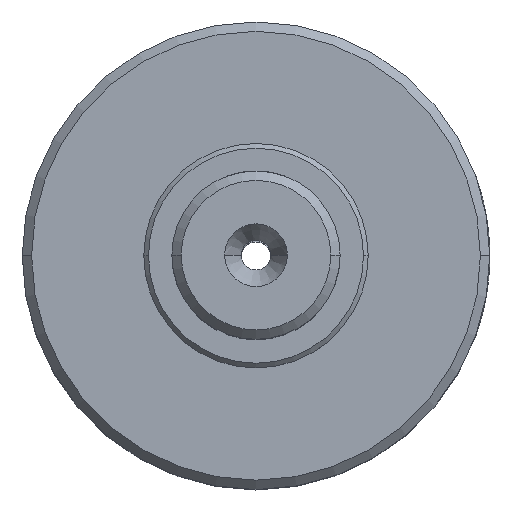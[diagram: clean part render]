
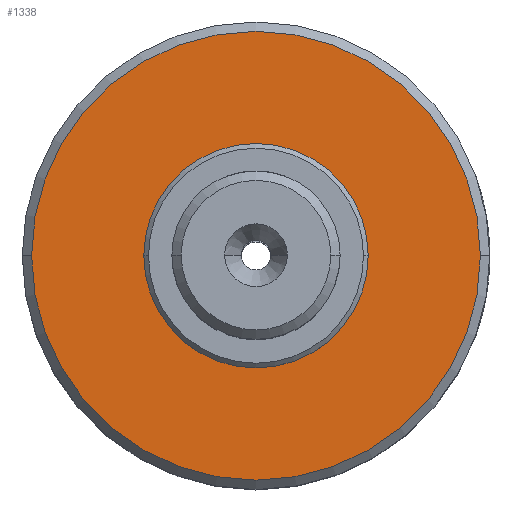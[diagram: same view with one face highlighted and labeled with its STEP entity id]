
A CAD part, top view. The second image highlights one B-rep face of the part: STEP entity #1338.
In plain terms, the highlighted planar face has unit normal (0, 0, 1).
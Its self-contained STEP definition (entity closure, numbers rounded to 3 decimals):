
#97 = AXIS2_PLACEMENT_3D ( 'NONE', #1650, #1080, #1220 ) ;
#102 = CARTESIAN_POINT ( 'NONE',  ( 24., 0., 0. ) ) ;
#124 = ORIENTED_EDGE ( 'NONE', *, *, #1686, .T. ) ;
#126 = ORIENTED_EDGE ( 'NONE', *, *, #174, .T. ) ;
#137 = CIRCLE ( 'NONE', #1095, 10.5 ) ;
#162 = CIRCLE ( 'NONE', #2342, 10.5 ) ;
#174 = EDGE_CURVE ( 'NONE', #277, #1165, #137, .T. ) ;
#277 = VERTEX_POINT ( 'NONE', #1339 ) ;
#670 = ORIENTED_EDGE ( 'NONE', *, *, #2336, .T. ) ;
#733 = CIRCLE ( 'NONE', #1565, 24. ) ;
#734 = CARTESIAN_POINT ( 'NONE',  ( 0., 0., 0. ) ) ;
#781 = CIRCLE ( 'NONE', #1096, 24. ) ;
#871 = CARTESIAN_POINT ( 'NONE',  ( 0., 0., 0. ) ) ;
#882 = DIRECTION ( 'NONE',  ( 0., 0., 1. ) ) ;
#891 = DIRECTION ( 'NONE',  ( 1., 0., 0. ) ) ;
#936 = VERTEX_POINT ( 'NONE', #1968 ) ;
#1080 = DIRECTION ( 'NONE',  ( 0., 0., 1. ) ) ;
#1095 = AXIS2_PLACEMENT_3D ( 'NONE', #1863, #1821, #1855 ) ;
#1096 = AXIS2_PLACEMENT_3D ( 'NONE', #1101, #1204, #1216 ) ;
#1098 = CARTESIAN_POINT ( 'NONE',  ( -10.5, 0., 0. ) ) ;
#1101 = CARTESIAN_POINT ( 'NONE',  ( 0., 0., 0. ) ) ;
#1165 = VERTEX_POINT ( 'NONE', #1098 ) ;
#1176 = FACE_OUTER_BOUND ( 'NONE', #1583, .T. ) ;
#1204 = DIRECTION ( 'NONE',  ( 0., 0., 1. ) ) ;
#1216 = DIRECTION ( 'NONE',  ( 1., 0., 0. ) ) ;
#1220 = DIRECTION ( 'NONE',  ( 1., 0., 0. ) ) ;
#1330 = EDGE_CURVE ( 'NONE', #1679, #936, #781, .T. ) ;
#1338 = ADVANCED_FACE ( 'NONE', ( #1505, #1176 ), #1673, .T. ) ;
#1339 = CARTESIAN_POINT ( 'NONE',  ( 10.5, 0., 0. ) ) ;
#1505 = FACE_BOUND ( 'NONE', #1646, .T. ) ;
#1565 = AXIS2_PLACEMENT_3D ( 'NONE', #871, #882, #891 ) ;
#1583 = EDGE_LOOP ( 'NONE', ( #670, #2282 ) ) ;
#1646 = EDGE_LOOP ( 'NONE', ( #126, #124 ) ) ;
#1650 = CARTESIAN_POINT ( 'NONE',  ( 0., 0., 0. ) ) ;
#1673 = PLANE ( 'NONE',  #97 ) ;
#1679 = VERTEX_POINT ( 'NONE', #102 ) ;
#1686 = EDGE_CURVE ( 'NONE', #1165, #277, #162, .T. ) ;
#1813 = DIRECTION ( 'NONE',  ( 1., 0., 0. ) ) ;
#1821 = DIRECTION ( 'NONE',  ( 0., 0., -1. ) ) ;
#1835 = DIRECTION ( 'NONE',  ( 0., 0., -1. ) ) ;
#1855 = DIRECTION ( 'NONE',  ( 1., 0., 0. ) ) ;
#1863 = CARTESIAN_POINT ( 'NONE',  ( 0., 0., 0. ) ) ;
#1968 = CARTESIAN_POINT ( 'NONE',  ( -24., 0., 0. ) ) ;
#2282 = ORIENTED_EDGE ( 'NONE', *, *, #1330, .T. ) ;
#2336 = EDGE_CURVE ( 'NONE', #936, #1679, #733, .T. ) ;
#2342 = AXIS2_PLACEMENT_3D ( 'NONE', #734, #1835, #1813 ) ;
